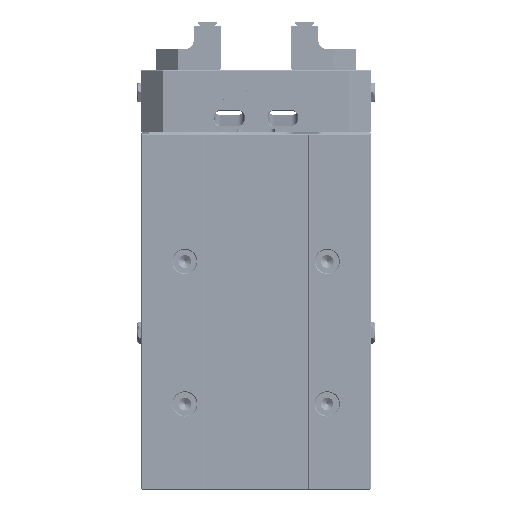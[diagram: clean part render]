
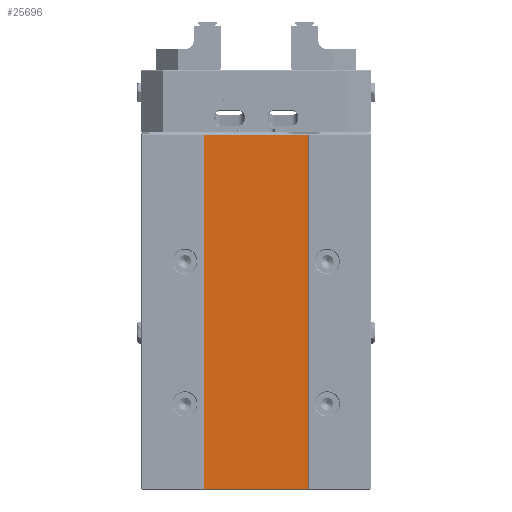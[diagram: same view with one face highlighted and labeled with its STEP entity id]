
A CAD part, front view. The second image highlights one B-rep face of the part: STEP entity #25696.
In plain terms, the highlighted planar face has unit normal (0, -1, 0).
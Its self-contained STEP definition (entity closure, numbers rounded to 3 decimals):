
#2198=DIRECTION('',(-1.,0.,0.));
#2199=VECTOR('',#2198,70.);
#2200=CARTESIAN_POINT('',(35.,41.,-188.));
#2201=LINE('',#2200,#2199);
#2202=DIRECTION('',(1.,0.,0.));
#2203=VECTOR('',#2202,70.);
#2204=CARTESIAN_POINT('',(-35.,41.,51.));
#2205=LINE('',#2204,#2203);
#2214=DIRECTION('',(0.,0.,-1.));
#2215=VECTOR('',#2214,239.);
#2216=CARTESIAN_POINT('',(-35.,41.,51.));
#2217=LINE('',#2216,#2215);
#5841=DIRECTION('',(0.,0.,1.));
#5842=VECTOR('',#5841,239.);
#5843=CARTESIAN_POINT('',(35.,41.,-188.));
#5844=LINE('',#5843,#5842);
#20492=CARTESIAN_POINT('',(35.,41.,-188.));
#20493=CARTESIAN_POINT('',(-35.,41.,-188.));
#20494=VERTEX_POINT('',#20492);
#20495=VERTEX_POINT('',#20493);
#20496=CARTESIAN_POINT('',(-35.,41.,51.));
#20497=VERTEX_POINT('',#20496);
#20498=CARTESIAN_POINT('',(35.,41.,51.));
#20499=VERTEX_POINT('',#20498);
#25682=CARTESIAN_POINT('',(0.,41.,0.));
#25683=DIRECTION('',(0.,-1.,0.));
#25684=DIRECTION('',(1.,0.,0.));
#25685=AXIS2_PLACEMENT_3D('',#25682,#25683,#25684);
#25686=PLANE('',#25685);
#25687=ORIENTED_EDGE('',*,*,#25672,.T.);
#25689=ORIENTED_EDGE('',*,*,#25688,.F.);
#25691=ORIENTED_EDGE('',*,*,#25690,.T.);
#25693=ORIENTED_EDGE('',*,*,#25692,.F.);
#25694=EDGE_LOOP('',(#25687,#25689,#25691,#25693));
#25695=FACE_OUTER_BOUND('',#25694,.F.);
#25696=ADVANCED_FACE('',(#25695),#25686,.T.);
#25672=EDGE_CURVE('',#20494,#20495,#2201,.T.);
#25688=EDGE_CURVE('',#20497,#20495,#2217,.T.);
#25690=EDGE_CURVE('',#20497,#20499,#2205,.T.);
#25692=EDGE_CURVE('',#20494,#20499,#5844,.T.);
